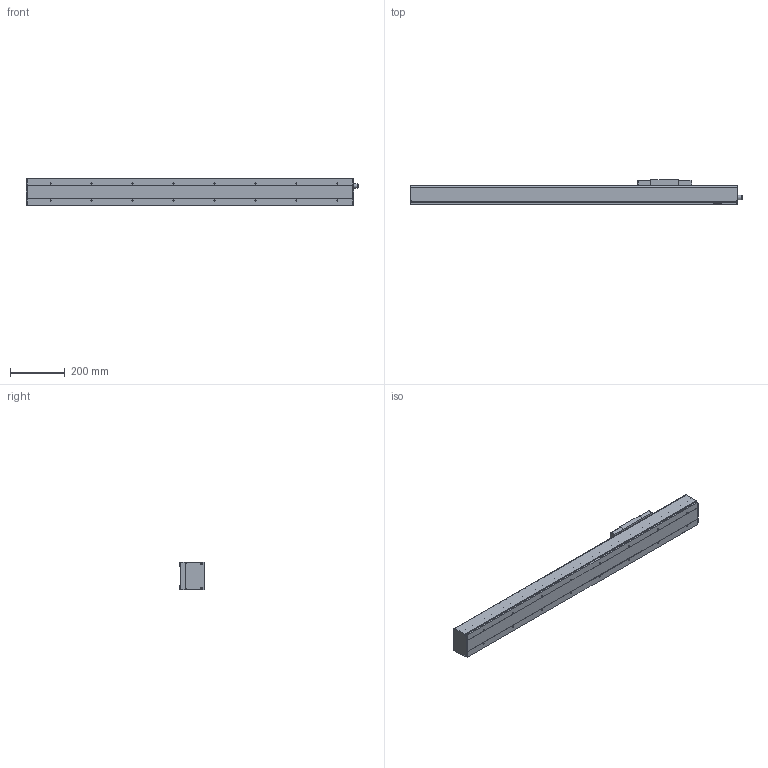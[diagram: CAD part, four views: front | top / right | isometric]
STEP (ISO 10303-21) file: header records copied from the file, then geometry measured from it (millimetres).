
FILE_DESCRIPTION(/* description */ (''),/* implementation_level */ '2;1');
FILE_NAME(/* name */ 'D:\混合母檔20191031\混和母檔\混和母檔\bin\Debug\Download\3D\KS100-10C-800AFI\KS100-10C-800AFI.stp',/* time_stamp */ '2019-11-04T14:49:41+08:00',/* author */ ('user'),/* organization */ (''),/* preprocessor_version */ 'ST-DEVELOPER v16.13',/* originating_system */ 'Autodesk Inventor 2018',/* authorisation */ '');
FILE_SCHEMA (('AUTOMOTIVE_DESIGN { 1 0 10303 214 3 1 1 }'));
Length unit declared in the file: millimetre
Products named in the file (3): KS100-10C-800AFI; KS100-FI; KS100-SL
Assembly tree (2 placements, depth 2):
  KS100-10C-800AFI
    KS100-FI
    KS100-SL
Bounding box: 1215.5 x 89 x 102.4 mm (x, y, z)
Volume: 2798113.6 mm3; surface area: 911916.2 mm2
Topology: 3 solids, 7 shells, 658 faces, 1816 edges, 1196 vertices
Faces by surface type: plane 345, bspline 136, cylinder 80, cone 77, torus 16, sphere 4
Full cylindrical faces by diameter (mm): 2.459 x4, 3.242 x4, 3.571 x8, 4 x4, 4.134 x16, 4.3 x4, 6 x7, 8 x4, 8.4 x4, 14 x1, 15.538 x1, 28 x1, 30 x1
Entity records: 24832 total; most frequent: CARTESIAN_POINT 9370, ORIENTED_EDGE 3328, DIRECTION 2711, EDGE_CURVE 1664, VERTEX_POINT 1148, LINE 1059, VECTOR 1059, EDGE_LOOP 838
